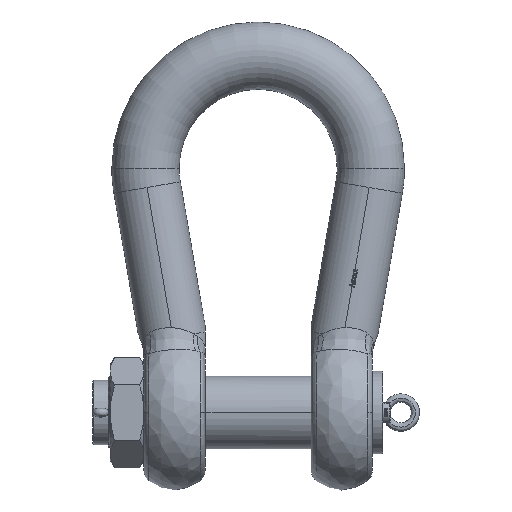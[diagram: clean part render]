
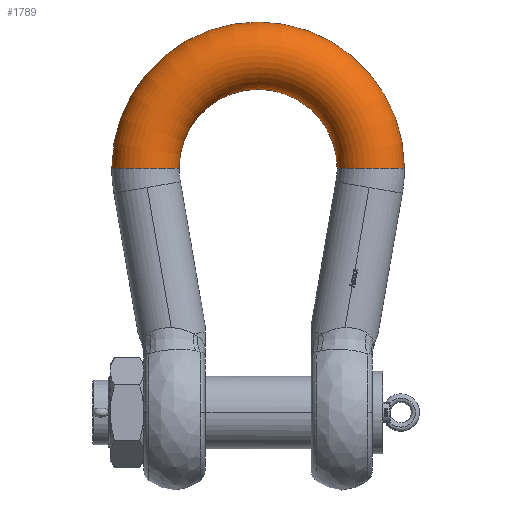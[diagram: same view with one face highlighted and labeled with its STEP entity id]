
A CAD part, front view. The second image highlights one B-rep face of the part: STEP entity #1789.
In plain terms, the highlighted toroidal (fillet/blend) face has major radius 217.5 mm and minor radius 64.995 mm.
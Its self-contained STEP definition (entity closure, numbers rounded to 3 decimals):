
#1789=ADVANCED_FACE('',(#4304),#4305,.T.);
#4304=FACE_OUTER_BOUND('',#8691,.T.);
#4305=TOROIDAL_SURFACE('',#8692,217.5,64.995);
#8691=EDGE_LOOP('',(#24515,#24516,#24517,#24518));
#8692=AXIS2_PLACEMENT_3D('',#24519,#24520,#24521);
#24515=ORIENTED_EDGE('',*,*,#30876,.T.);
#24516=ORIENTED_EDGE('',*,*,#32283,.F.);
#24517=ORIENTED_EDGE('',*,*,#30878,.T.);
#24518=ORIENTED_EDGE('',*,*,#32312,.F.);
#24519=CARTESIAN_POINT('',(0.0,0.0,471.5));
#24520=DIRECTION('',(0.0,-1.0,0.0));
#24521=DIRECTION('',(1.0,0.0,0.0));
#30876=EDGE_CURVE('',#34853,#34854,#34855,.T.);
#30878=EDGE_CURVE('',#34858,#34856,#34859,.T.);
#32283=EDGE_CURVE('',#34858,#34854,#37056,.T.);
#32312=EDGE_CURVE('',#34853,#34856,#37106,.T.);
#34853=VERTEX_POINT('',#40737);
#34854=VERTEX_POINT('',#40738);
#34855=CIRCLE('',#40739,282.495);
#34856=VERTEX_POINT('',#40740);
#34858=VERTEX_POINT('',#40742);
#34859=CIRCLE('',#40743,152.505);
#37056=CIRCLE('',#45961,64.995);
#37106=CIRCLE('',#46187,64.995);
#40737=CARTESIAN_POINT('',(282.495,0.,471.5));
#40738=CARTESIAN_POINT('',(-282.495,0.,471.5));
#40739=AXIS2_PLACEMENT_3D('',#142887,#142888,#142889);
#40740=CARTESIAN_POINT('',(152.505,0.,471.5));
#40742=CARTESIAN_POINT('',(-152.505,0.,471.5));
#40743=AXIS2_PLACEMENT_3D('',#142893,#142894,#142895);
#45961=AXIS2_PLACEMENT_3D('',#144290,#144291,#144292);
#46187=AXIS2_PLACEMENT_3D('',#144299,#144300,#144301);
#142887=CARTESIAN_POINT('',(0.0,0.,471.5));
#142888=DIRECTION('',(0.0,-1.0,0.0));
#142889=DIRECTION('',(0.0,0.0,-1.0));
#142893=CARTESIAN_POINT('',(0.0,0.,471.5));
#142894=DIRECTION('',(-0.0,1.0,0.0));
#142895=DIRECTION('',(0.0,0.0,-1.0));
#144290=CARTESIAN_POINT('',(-217.5,0.0,471.5));
#144291=DIRECTION('',(0.0,0.0,-1.0));
#144292=DIRECTION('',(-1.0,0.0,0.0));
#144299=CARTESIAN_POINT('',(217.5,0.0,471.5));
#144300=DIRECTION('',(0.0,0.0,-1.0));
#144301=DIRECTION('',(1.0,0.0,0.0));
